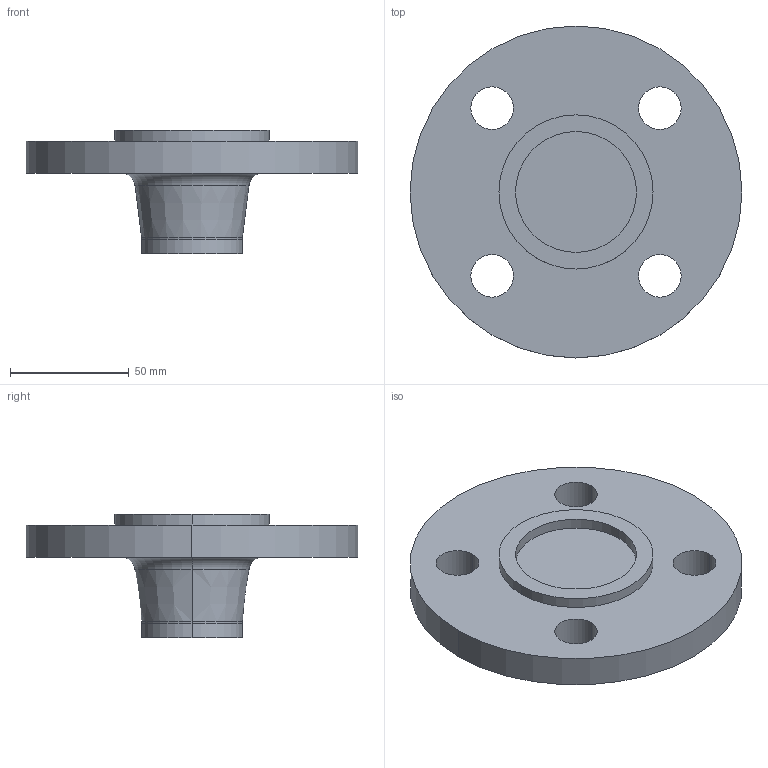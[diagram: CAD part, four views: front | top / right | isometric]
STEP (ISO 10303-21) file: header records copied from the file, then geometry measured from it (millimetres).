
FILE_DESCRIPTION (( 'STEP AP214' ), '1' );
FILE_NAME ('PN40 DN32 Type 21(ii) - Type C Face.STEP', '2018-12-29T23:44:14', ( '' ), ( '' ), 'SwSTEP 2.0', 'SolidWorks 2019', '' );
FILE_SCHEMA (( 'AUTOMOTIVE_DESIGN' ));
Length unit declared in the file: millimetre
Products named in the file (1): PN40 DN32 Type 21(ii) - Type C Face
Bounding box: 140 x 140 x 52 mm (x, y, z)
Volume: 255569 mm3; surface area: 43459.6 mm2
Topology: 1 solids, 1 shells, 27 faces, 60 edges, 38 vertices
Faces by surface type: cylinder 16, plane 5, torus 4, cone 2
Entity records: 818 total; most frequent: DIRECTION 158, CARTESIAN_POINT 126, ORIENTED_EDGE 120, AXIS2_PLACEMENT_3D 70, EDGE_CURVE 60, CIRCLE 42, EDGE_LOOP 38, VERTEX_POINT 38
